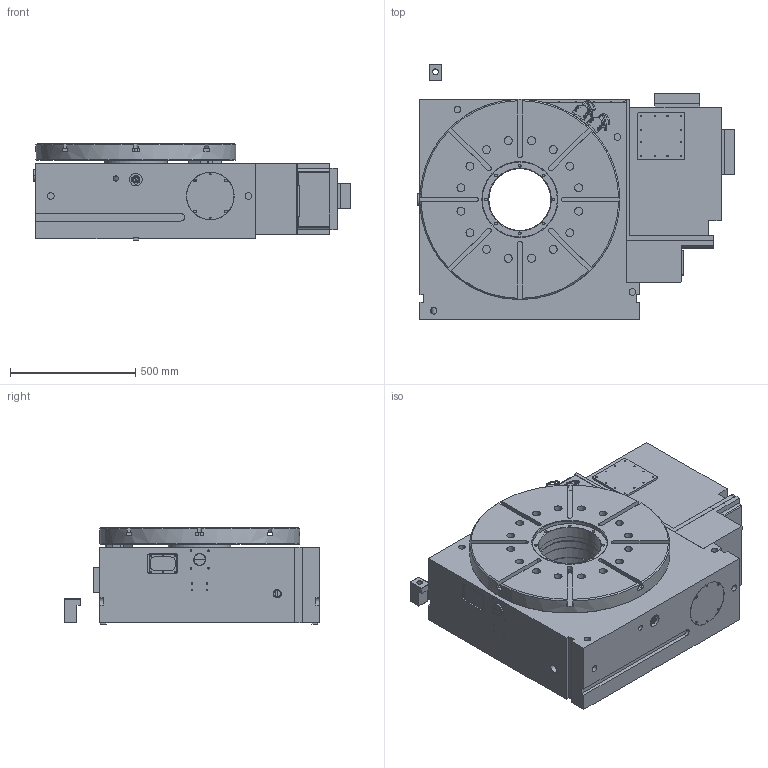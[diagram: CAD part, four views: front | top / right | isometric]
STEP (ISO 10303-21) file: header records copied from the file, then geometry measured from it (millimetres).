
FILE_DESCRIPTION (( 'STEP AP203' ), '1' );
FILE_NAME ('1532218.STEP', '2021-05-20T23:45:27', ( '' ), ( '' ), 'SwSTEP 2.0', 'SolidWorks 2019', '' );
FILE_SCHEMA (( 'CONFIG_CONTROL_DESIGN' ));
Length unit declared in the file: millimetre
Products named in the file (1): 1532218
Bounding box: 1269 x 1021.14 x 386 mm (x, y, z)
Surface area: 5088553.3 mm2 (no closed solid volume)
Topology: 0 solids, 84 shells, 591 faces, 2119 edges, 1572 vertices
Faces by surface type: plane 277, cylinder 244, cone 59, torus 7, bspline 4
Full cylindrical faces by diameter (mm): 4 x4, 4.2 x3, 4.3 x2, 5 x1, 5.5 x8, 5.6 x4, 6 x3, 6.8 x10, 8 x1, 8.5 x2, 9 x23, 9.5 x37, 10.2 x8, 11 x10, 19 x25, 20 x28, 22 x1, 23 x1, 26.5 x8, 27 x2, 32 x16, 48 x1, 50 x1, 190 x1, 248 x3, 250 x2, 300 x1, 315 x1, 330 x1, 338 x1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
Entity records: 22556 total; most frequent: CARTESIAN_POINT 5007, DIRECTION 3756, ORIENTED_EDGE 2587, EDGE_CURVE 1793, VERTEX_POINT 1517, AXIS2_PLACEMENT_3D 1430, EDGE_LOOP 1221, VECTOR 896
